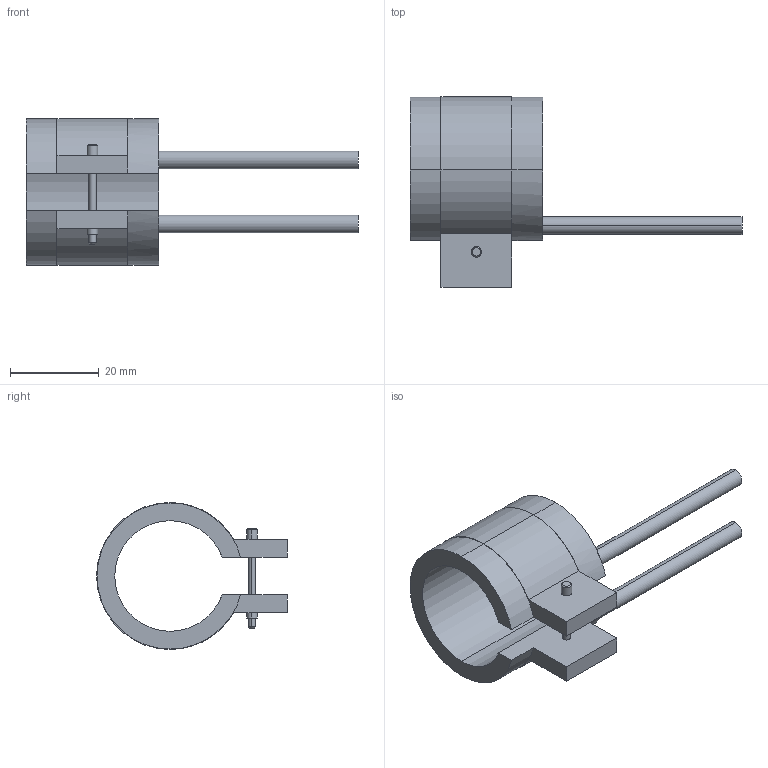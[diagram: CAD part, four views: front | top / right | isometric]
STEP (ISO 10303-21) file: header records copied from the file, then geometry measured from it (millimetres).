
FILE_DESCRIPTION(('CATIA V5 STEP Exchange'),'2;1');
FILE_NAME('C:\Users\Utente\Desktop\IO LAVORO\3D X SITO CF\X SITO\PLASTICA\RF2\14025030.stp','2021-03-31T11:42:41+00:00',('none'),('none'),'CATIA Version 5 Release 20 GA (IN-10)','CATIA V5 STEP AP203','none');
FILE_SCHEMA(('CONFIG_CONTROL_DESIGN'));
Length unit declared in the file: millimetre
Products named in the file (1): 14025030
Bounding box: 75 x 43.1 x 33.2 mm (x, y, z)
Volume: 12650.7 mm3; surface area: 7990.3 mm2
Topology: 1 solids, 1 shells, 45 faces, 116 edges, 76 vertices
Faces by surface type: cylinder 24, plane 17, cone 4
Entity records: 1400 total; most frequent: CARTESIAN_POINT 274, ORIENTED_EDGE 232, DIRECTION 196, EDGE_CURVE 116, AXIS2_PLACEMENT_3D 104, VERTEX_POINT 76, CIRCLE 62, VECTOR 52
